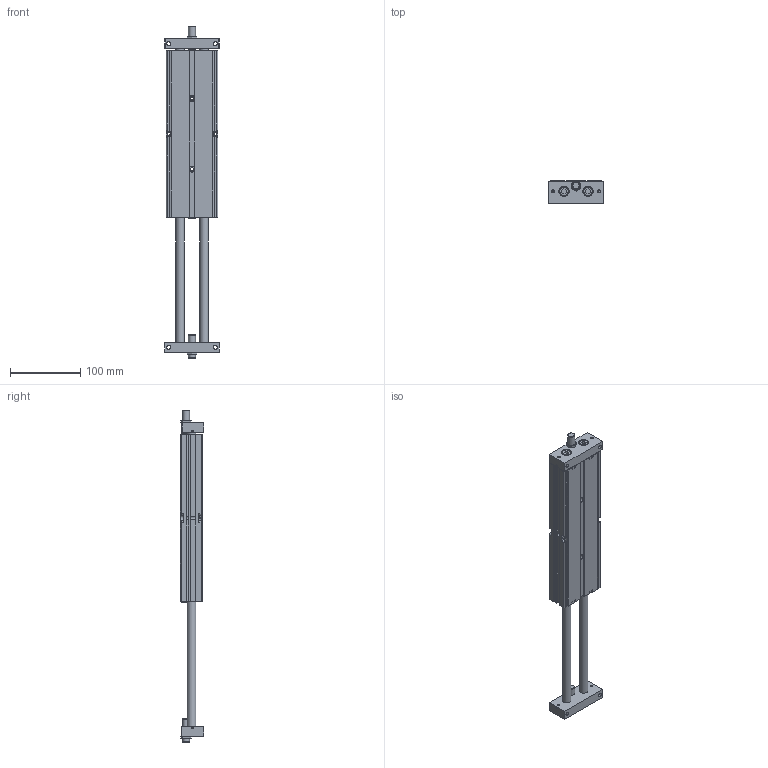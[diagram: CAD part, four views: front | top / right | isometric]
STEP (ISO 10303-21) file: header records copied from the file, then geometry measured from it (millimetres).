
FILE_DESCRIPTION((''),'2;1');
FILE_NAME('I:\3D電子目錄\氣缸\STU\STU\STU25\STU25x175.stp','2007-10-01T11:44:36',('Administrator'),(''),'Autodesk Inventor 11','Autodesk Inventor 11','');
FILE_SCHEMA(('AUTOMOTIVE_DESIGN { 1 0 10303 214 1 1 1 1 }'));
Length unit declared in the file: millimetre
Products named in the file (1): STU25
Bounding box: 77 x 33 x 472 mm (x, y, z)
Volume: 593636.9 mm3; surface area: 107543.4 mm2
Topology: 1 solids, 1 shells, 350 faces, 884 edges, 559 vertices
Faces by surface type: plane 163, cone 81, bspline 58, cylinder 44, torus 4
Full cylindrical faces by diameter (mm): 2.459 x2, 8 x2, 10 x4, 12 x2, 13 x4, 14 x4, 28 x2, 29.6 x2
Entity records: 11237 total; most frequent: CARTESIAN_POINT 3733, ORIENTED_EDGE 1484, DIRECTION 1462, EDGE_CURVE 742, AXIS2_PLACEMENT_3D 555, EDGE_LOOP 530, VERTEX_POINT 522, VECTOR 352
